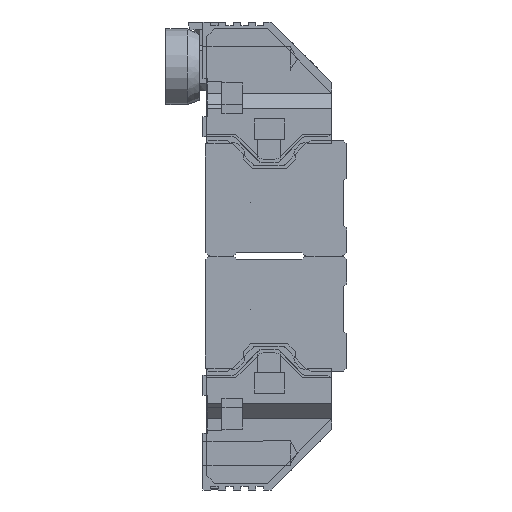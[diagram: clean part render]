
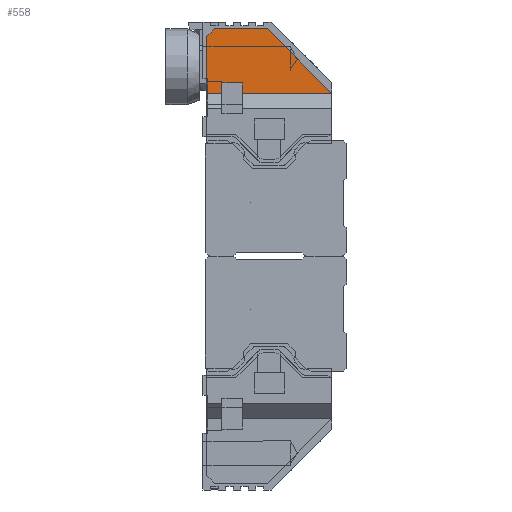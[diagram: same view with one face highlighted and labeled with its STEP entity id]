
A CAD part, left-side view. The second image highlights one B-rep face of the part: STEP entity #558.
In plain terms, the highlighted planar face has unit normal (-1, 0, 0).
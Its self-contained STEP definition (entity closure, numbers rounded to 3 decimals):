
#558 = ADVANCED_FACE( '', ( #2094 ), #2095, .T. );
#2094 = FACE_OUTER_BOUND( '', #4562, .T. );
#2095 = PLANE( '', #4563 );
#4562 = EDGE_LOOP( '', ( #8130, #8131, #8132, #8133, #8134, #8135, #8136, #8137, #8138 ) );
#4563 = AXIS2_PLACEMENT_3D( '', #8139, #8140, #8141 );
#8130 = ORIENTED_EDGE( '', *, *, #13008, .F. );
#8131 = ORIENTED_EDGE( '', *, *, #13022, .T. );
#8132 = ORIENTED_EDGE( '', *, *, #13016, .T. );
#8133 = ORIENTED_EDGE( '', *, *, #13026, .T. );
#8134 = ORIENTED_EDGE( '', *, *, #13027, .F. );
#8135 = ORIENTED_EDGE( '', *, *, #13028, .F. );
#8136 = ORIENTED_EDGE( '', *, *, #13029, .F. );
#8137 = ORIENTED_EDGE( '', *, *, #13030, .F. );
#8138 = ORIENTED_EDGE( '', *, *, #13023, .T. );
#8139 = CARTESIAN_POINT( '', ( -42., 13.6, 36.5 ) );
#8140 = DIRECTION( '', ( -1., 0., 0. ) );
#8141 = DIRECTION( '', ( 0., 0., 1. ) );
#13008 = EDGE_CURVE( '', #15378, #15380, #15381, .T. );
#13016 = EDGE_CURVE( '', #15395, #15393, #15396, .T. );
#13022 = EDGE_CURVE( '', #15378, #15395, #15403, .T. );
#13023 = EDGE_CURVE( '', #15404, #15380, #15405, .T. );
#13026 = EDGE_CURVE( '', #15393, #15409, #15410, .T. );
#13027 = EDGE_CURVE( '', #15411, #15409, #15412, .T. );
#13028 = EDGE_CURVE( '', #15413, #15411, #15414, .T. );
#13029 = EDGE_CURVE( '', #15415, #15413, #15416, .T. );
#13030 = EDGE_CURVE( '', #15404, #15415, #15417, .T. );
#15378 = VERTEX_POINT( '', #18923 );
#15380 = VERTEX_POINT( '', #18926 );
#15381 = LINE( '', #18927, #18928 );
#15393 = VERTEX_POINT( '', #18946 );
#15395 = VERTEX_POINT( '', #18949 );
#15396 = LINE( '', #18950, #18951 );
#15403 = LINE( '', #18963, #18964 );
#15404 = VERTEX_POINT( '', #18965 );
#15405 = LINE( '', #18966, #18967 );
#15409 = VERTEX_POINT( '', #18973 );
#15410 = LINE( '', #18974, #18975 );
#15411 = VERTEX_POINT( '', #18976 );
#15412 = LINE( '', #18977, #18978 );
#15413 = VERTEX_POINT( '', #18979 );
#15414 = LINE( '', #18980, #18981 );
#15415 = VERTEX_POINT( '', #18982 );
#15416 = LINE( '', #18983, #18984 );
#15417 = LINE( '', #18985, #18986 );
#18923 = CARTESIAN_POINT( '', ( -42., 7.15, 15.35 ) );
#18926 = CARTESIAN_POINT( '', ( -42., 7.15, 14. ) );
#18927 = CARTESIAN_POINT( '', ( -42., 7.15, 36.5 ) );
#18928 = VECTOR( '', #23253, 1000. );
#18946 = CARTESIAN_POINT( '', ( -42., 4.45, 14. ) );
#18949 = CARTESIAN_POINT( '', ( -42., 4.45, 15.35 ) );
#18950 = CARTESIAN_POINT( '', ( -42., 4.45, 36.5 ) );
#18951 = VECTOR( '', #23261, 1000. );
#18963 = CARTESIAN_POINT( '', ( -42., 13.6, 15.35 ) );
#18964 = VECTOR( '', #23267, 1000. );
#18965 = CARTESIAN_POINT( '', ( -42., 9.15, 14. ) );
#18966 = CARTESIAN_POINT( '', ( -42., 13.6, 14. ) );
#18967 = VECTOR( '', #23268, 1000. );
#18973 = CARTESIAN_POINT( '', ( -42., -7.35, 14. ) );
#18974 = CARTESIAN_POINT( '', ( -42., 13.6, 14. ) );
#18975 = VECTOR( '', #23271, 1000. );
#18976 = CARTESIAN_POINT( '', ( -42., 1.15, 22.5 ) );
#18977 = CARTESIAN_POINT( '', ( -42., 1.15, 22.5 ) );
#18978 = VECTOR( '', #23272, 1000. );
#18979 = CARTESIAN_POINT( '', ( -42., 8.15, 22.5 ) );
#18980 = CARTESIAN_POINT( '', ( -42., 8.15, 22.5 ) );
#18981 = VECTOR( '', #23273, 1000. );
#18982 = CARTESIAN_POINT( '', ( -42., 9.15, 21.5 ) );
#18983 = CARTESIAN_POINT( '', ( -42., 9.15, 21.5 ) );
#18984 = VECTOR( '', #23274, 1000. );
#18985 = CARTESIAN_POINT( '', ( -42., 9.15, 8.55 ) );
#18986 = VECTOR( '', #23275, 1000. );
#23253 = DIRECTION( '', ( 0., 0., -1. ) );
#23261 = DIRECTION( '', ( 0., 0., -1. ) );
#23267 = DIRECTION( '', ( 0., -1., 0. ) );
#23268 = DIRECTION( '', ( 0., -1., 0. ) );
#23271 = DIRECTION( '', ( 0., -1., 0. ) );
#23272 = DIRECTION( '', ( 0., -0.707, -0.707 ) );
#23273 = DIRECTION( '', ( 0., -1., 0. ) );
#23274 = DIRECTION( '', ( 0., -0.707, 0.707 ) );
#23275 = DIRECTION( '', ( 0., 0., 1. ) );
